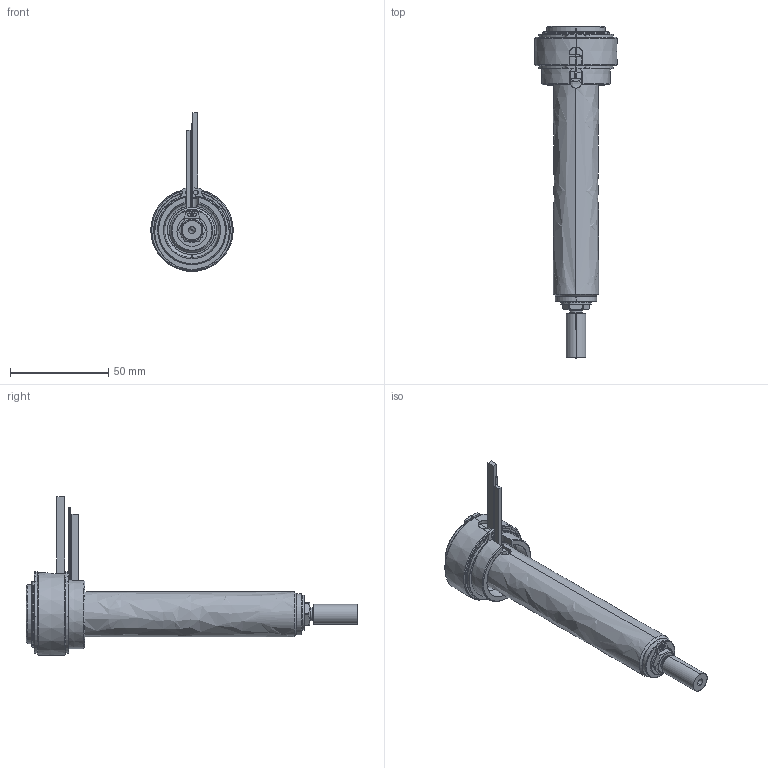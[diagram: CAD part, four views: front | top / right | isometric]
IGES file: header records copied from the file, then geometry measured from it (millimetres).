
Start section: SolidWorks IGES file using analytic representation for surfaces
Global section: file name: C:\Users\luca.EMPAD\Desktop\TEM\UGBE3503-M-A-P-3 [Ød-1.0 P-20 ØC-6.0].IGS; native system: SolidWorks 2012; preprocessor: SolidWorks 2012; author: luca; date: 120330.135528; units: millimetre
Bounding box: 42 x 169 x 80.9 mm (x, y, z)
Surface area: 37341.9 mm2 (no closed solid volume)
Topology: 0 solids, 0 shells, 182 faces, 3250 edges, 3250 vertices
Faces by surface type: revolution 116, bspline 66
